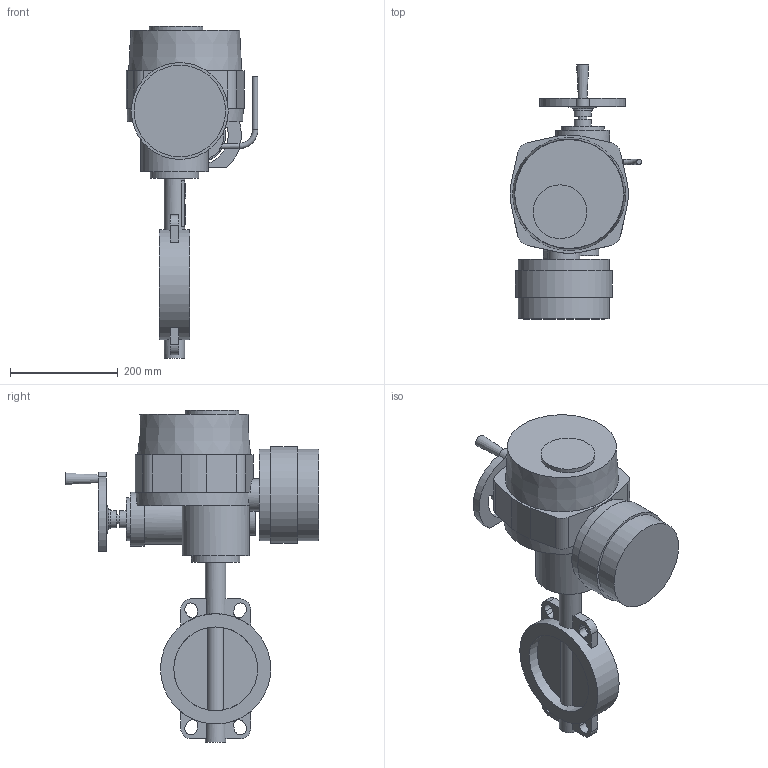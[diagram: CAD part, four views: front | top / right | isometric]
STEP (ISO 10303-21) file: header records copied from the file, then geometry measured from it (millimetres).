
FILE_DESCRIPTION(('STEP AP203'), '1');
FILE_NAME('青蜮铕 017W.ZS DN150+菹 QT.A015', '', ('UNSPECIFIED'), ('UNSPECIFIED'), 'ASCON STEP Converter 1.6', 'ASCON Math Kernel', '');
FILE_SCHEMA(('CONFIG_CONTROL_DESIGN'));
Length unit declared in the file: millimetre
Bounding box: 244.71 x 472 x 617 mm (x, y, z)
Volume: 11252482.7 mm3; surface area: 610177 mm2
Topology: 1 solids, 2 shells, 847 faces, 2455 edges, 1581 vertices
Faces by surface type: cylinder 619, plane 224, cone 3, torus 1
Full cylindrical faces by diameter (mm): 6.7 x8, 10 x6, 16 x1, 18.9 x1, 22 x1, 32 x2, 35 x1, 38 x2, 55 x1, 60 x1, 80 x1, 90 x1, 100 x2, 125 x1, 155.7 x2, 170 x2, 180 x1, 205 x1
Entity records: 36320 total; most frequent: CARTESIAN_POINT 6115, DIRECTION 5398, ORIENTED_EDGE 4750, EDGE_CURVE 2414, AXIS2_PLACEMENT_3D 2164, VERTEX_POINT 1579, CIRCLE 1317, LINE 1070
